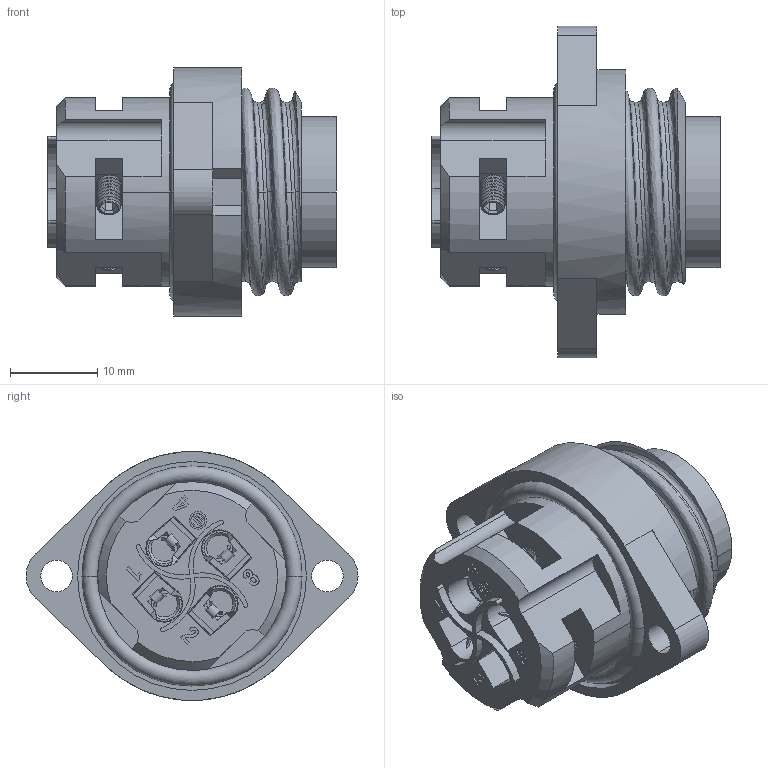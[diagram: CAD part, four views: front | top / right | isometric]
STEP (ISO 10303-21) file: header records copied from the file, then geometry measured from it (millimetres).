
FILE_DESCRIPTION((''),'2;1');
FILE_NAME('WA22J4Z2','2017-05-19T',('Administrator'),(''),'PRO/ENGINEER BY PARAMETRIC TECHNOLOGY CORPORATION, 2015240','PRO/ENGINEER BY PARAMETRIC TECHNOLOGY CORPORATION, 2015240','');
FILE_SCHEMA(('CONFIG_CONTROL_DESIGN'));
Length unit declared in the file: inch
Products named in the file (1): WA22J4Z2
Bounding box: 33 x 38 x 28.5 mm (x, y, z)
Volume: 10188.7 mm3; surface area: 7711.2 mm2
Topology: 1 solids, 1 shells, 798 faces, 2148 edges, 1355 vertices
Faces by surface type: plane 410, cylinder 215, extrusion 70, bspline 45, cone 39, sphere 16, torus 3
Entity records: 35861 total; most frequent: CARTESIAN_POINT 16713, ORIENTED_EDGE 4264, DIRECTION 3459, EDGE_CURVE 2132, VERTEX_POINT 1355, VECTOR 1301, LINE 1231, AXIS2_PLACEMENT_3D 1079
